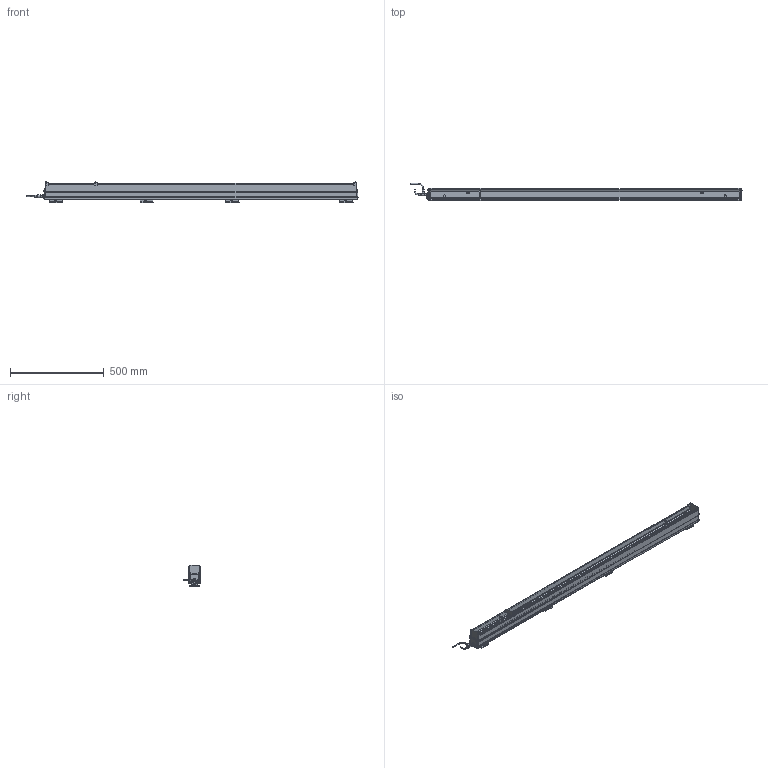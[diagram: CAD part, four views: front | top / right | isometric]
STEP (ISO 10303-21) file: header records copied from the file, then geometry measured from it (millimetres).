
FILE_DESCRIPTION(/* description */ (''),/* implementation_level */ '2;1');
FILE_NAME(/* name */ 'THUNDERION2_3D_1500-1695',/* time_stamp */ '2017-09-28T10:56:08+02:00',/* author */ (''),/* organization */ (''),/* preprocessor_version */ 'ST-DEVELOPER v15.7',/* originating_system */ 'HiCAD 2015 2002.1 Build 408',/* authorisation */ '');
FILE_SCHEMA (('AUTOMOTIVE_DESIGN { 1 0 10303 214 1 1 1 1 }'));
Products named in the file (100): Root; -_ThunderION 1500/1695; -_Side profile; -_Bar; -_Connector straight; EXTRUDED SOLID_0; -_Cord; REVOLVED SOLID_1; REVOLVED SOLID_3; DIN 13-M12x1,5; -_Connector angled; REVOLVED SOLID_2; 4532000100_Mounting bracket bars; -_Side piece; -_Slide piece; -_Bracket small; DIN 13-M3; DIN 76-M3; -_Cable End; light pipe M; light pipe L; -_Cap CE; -_Stud M4; -_Connector M12 male 5 pole_1; -_Contacts; ABSR_1_2_1_1_Inner part; ABSR_1_2_1_2_Inner part; bus; Pg 9; -_Ring tongue terminal; 9230000020_Nut M4; GEWINDE; 9240100020_Spring washer M4; ISO 7051-ST3.5x9.5-C-H_Tapping screws_0; -_Fill; -_Dead end; -_Cap DE; -_Emitter; -_Support Side Profile; -_End Plate
Assembly tree (99 placements, depth 6):
  Root
    -_ThunderION 1500/1695
      -_Side profile
      -_Side profile
      -_Bar
      -_Connector straight
        EXTRUDED SOLID_0
        -_Cord
        REVOLVED SOLID_1
        REVOLVED SOLID_3
          DIN 13-M12x1,5
      -_Connector angled
        REVOLVED SOLID_1
        EXTRUDED SOLID_0
        -_Cord
        REVOLVED SOLID_2
        REVOLVED SOLID_3
          DIN 13-M12x1,5
      4532000100_Mounting bracket bars
        -_Side piece
        -_Side piece
        -_Slide piece
        -_Bracket small
          DIN 13-M3
          DIN 13-M3
          DIN 76-M3
          DIN 76-M3
      4532000100_Mounting bracket bars
        -_Side piece
        -_Side piece
        -_Slide piece
        -_Bracket small
          DIN 13-M3
          DIN 13-M3
          DIN 76-M3
          DIN 76-M3
      4532000100_Mounting bracket bars
        -_Side piece
        -_Side piece
        -_Slide piece
        -_Bracket small
          DIN 13-M3
          DIN 13-M3
          DIN 76-M3
          DIN 76-M3
      4532000100_Mounting bracket bars
        -_Side piece
        -_Side piece
        -_Slide piece
        -_Bracket small
          DIN 13-M3
          DIN 13-M3
          DIN 76-M3
          DIN 76-M3
      -_Cable End
        light pipe M
        light pipe L
        light pipe L
        -_Cap CE
        -_Stud M4
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Bounding box: 1773.34 x 92.24 x 113 mm (x, y, z)
Volume: 5347125.7 mm3; surface area: 1258834.3 mm2
Topology: 93 solids, 105 shells, 4183 faces, 10775 edges, 6593 vertices
Faces by surface type: plane 1811, cylinder 1586, bspline 248, torus 198, sphere 175, cone 165
Full cylindrical faces by diameter (mm): 0.8 x10, 1 x10, 2.387 x16, 2.5 x1, 2.64 x16, 3 x32, 3.141 x2, 3.5 x8, 4 x26, 4.2 x3, 4.4 x1, 5 x4, 5.5 x20, 7.3 x8, 8 x2, 8.4 x2, 9 x6, 9.6 x1, 10 x2, 10.16 x1, 10.5 x2, 11 x4, 12 x5, 12.8 x1, 13.8 x4, 13.86 x1, 14.5 x3, 15.199 x1, 15.2 x1
Entity records: 257851 total; most frequent: CARTESIAN_POINT 77966, DIRECTION 20621, PRESENTATION_STYLE_ASSIGNMENT 20295, OVER_RIDING_STYLED_ITEM 20206, DRAUGHTING_PRE_DEFINED_CURVE_FONT 20174, CURVE_STYLE 20174, ORIENTED_EDGE 20174, EDGE_CURVE 10087
